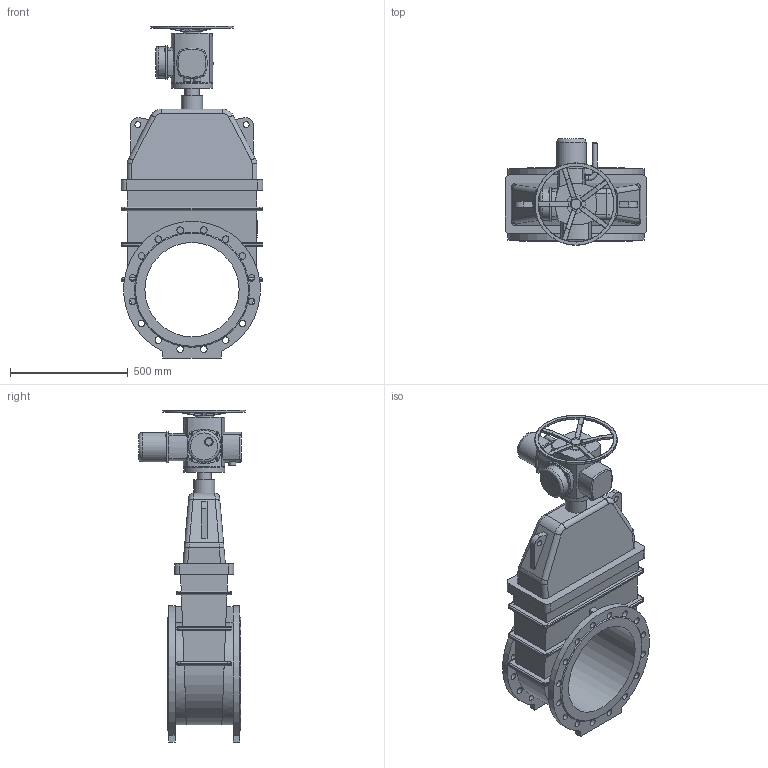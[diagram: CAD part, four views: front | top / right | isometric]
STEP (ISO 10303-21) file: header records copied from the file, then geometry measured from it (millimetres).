
FILE_DESCRIPTION(('STEP AP203'), '1');
FILE_NAME('青溻桄赅 47GVA DN400 PN10+MT903.Z30', '', ('UNSPECIFIED'), ('UNSPECIFIED'), 'ASCON STEP Converter 1.6', 'ASCON Math Kernel', '');
FILE_SCHEMA(('CONFIG_CONTROL_DESIGN'));
Length unit declared in the file: millimetre
Bounding box: 600 x 453 x 1409 mm (x, y, z)
Volume: 87212554.9 mm3; surface area: 3082299.5 mm2
Topology: 2 solids, 2 shells, 546 faces, 1422 edges, 883 vertices
Faces by surface type: cylinder 262, plane 218, bspline 34, torus 25, cone 7
Full cylindrical faces by diameter (mm): 10 x8, 13.835 x4, 18 x4, 20 x2, 25 x2, 28 x32, 29.22 x1, 30 x2, 34 x1, 36 x1, 40 x1, 60 x1, 80 x1, 90 x1, 100 x2, 125 x1, 135 x1, 175 x2, 350 x1, 400 x1
Entity records: 28938 total; most frequent: CARTESIAN_POINT 12144, ORIENTED_EDGE 2634, DIRECTION 2399, EDGE_CURVE 1317, AXIS2_PLACEMENT_3D 934, VERTEX_POINT 877, EDGE_LOOP 736, FACE_BOUND 581
